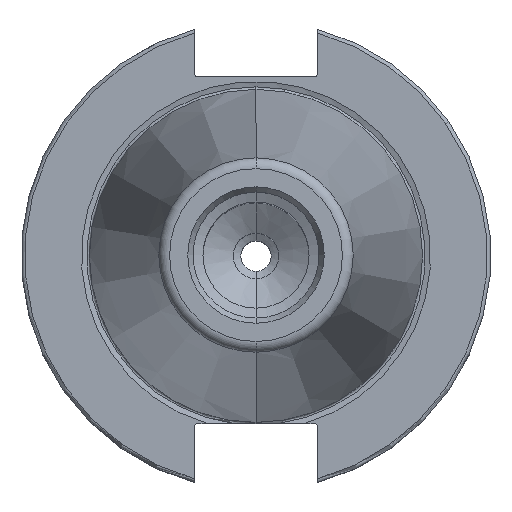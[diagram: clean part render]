
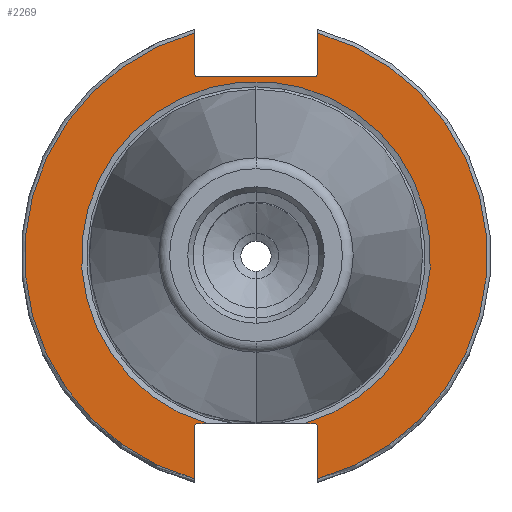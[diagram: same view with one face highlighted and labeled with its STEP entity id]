
A CAD part, top view. The second image highlights one B-rep face of the part: STEP entity #2269.
In plain terms, the highlighted planar face has unit normal (0, 0, 1).
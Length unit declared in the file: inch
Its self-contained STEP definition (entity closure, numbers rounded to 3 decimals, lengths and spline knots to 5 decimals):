
#35 = EDGE_CURVE ( 'NONE', #653, #1899, #2554, .T. ) ;
#63 = CARTESIAN_POINT ( 'NONE',  ( 0., 0., -0.125 ) ) ;
#81 = ORIENTED_EDGE ( 'NONE', *, *, #629, .F. ) ;
#93 = PLANE ( 'NONE',  #1018 ) ;
#112 = VERTEX_POINT ( 'NONE', #398 ) ;
#116 = CARTESIAN_POINT ( 'NONE',  ( -0.51, 0., -0.125 ) ) ;
#117 = CARTESIAN_POINT ( 'NONE',  ( -0.51, 1.5075, -0.125 ) ) ;
#121 = VERTEX_POINT ( 'NONE', #117 ) ;
#177 = EDGE_CURVE ( 'NONE', #2187, #3429, #1937, .T. ) ;
#261 = AXIS2_PLACEMENT_3D ( 'NONE', #3128, #2241, #2262 ) ;
#290 = DIRECTION ( 'NONE',  ( 0., -1., 0. ) ) ;
#397 = AXIS2_PLACEMENT_3D ( 'NONE', #63, #2986, #1528 ) ;
#398 = CARTESIAN_POINT ( 'NONE',  ( -0.48, -1.3825, -0.125 ) ) ;
#414 = CARTESIAN_POINT ( 'NONE',  ( 0.51, 0., -0.125 ) ) ;
#518 = ORIENTED_EDGE ( 'NONE', *, *, #1623, .F. ) ;
#557 = LINE ( 'NONE', #1736, #1743 ) ;
#560 = ORIENTED_EDGE ( 'NONE', *, *, #941, .T. ) ;
#583 = EDGE_CURVE ( 'NONE', #883, #1775, #3427, .T. ) ;
#595 = ORIENTED_EDGE ( 'NONE', *, *, #583, .T. ) ;
#629 = EDGE_CURVE ( 'NONE', #3429, #2669, #1135, .T. ) ;
#642 = DIRECTION ( 'NONE',  ( 0., -1., 0. ) ) ;
#653 = VERTEX_POINT ( 'NONE', #2189 ) ;
#674 = ORIENTED_EDGE ( 'NONE', *, *, #177, .F. ) ;
#709 = EDGE_CURVE ( 'NONE', #1899, #121, #3071, .T. ) ;
#713 = CARTESIAN_POINT ( 'NONE',  ( 0.51, 1.83806, -0.125 ) ) ;
#729 = DIRECTION ( 'NONE',  ( 0., 1., 0. ) ) ;
#733 = EDGE_CURVE ( 'NONE', #1775, #2669, #1300, .T. ) ;
#883 = VERTEX_POINT ( 'NONE', #890 ) ;
#885 = VERTEX_POINT ( 'NONE', #1780 ) ;
#890 = CARTESIAN_POINT ( 'NONE',  ( 0.48, -1.3825, -0.125 ) ) ;
#903 = CIRCLE ( 'NONE', #2863, 0.03 ) ;
#932 = DIRECTION ( 'NONE',  ( 0., 0., -1. ) ) ;
#941 = EDGE_CURVE ( 'NONE', #112, #1725, #557, .T. ) ;
#1013 = EDGE_CURVE ( 'NONE', #2760, #112, #3223, .T. ) ;
#1018 = AXIS2_PLACEMENT_3D ( 'NONE', #1278, #2464, #3647 ) ;
#1052 = DIRECTION ( 'NONE',  ( 0., 0., -1. ) ) ;
#1135 = CIRCLE ( 'NONE', #1627, 1.9075 ) ;
#1163 = CARTESIAN_POINT ( 'NONE',  ( -0.48, 1.5075, -0.125 ) ) ;
#1182 = CARTESIAN_POINT ( 'NONE',  ( 0.48, -1.4125, -0.125 ) ) ;
#1204 = DIRECTION ( 'NONE',  ( 0., 0., -1. ) ) ;
#1278 = CARTESIAN_POINT ( 'NONE',  ( 1.9075, 0., -0.125 ) ) ;
#1291 = DIRECTION ( 'NONE',  ( 0., 1., 0. ) ) ;
#1300 = LINE ( 'NONE', #414, #1444 ) ;
#1334 = ORIENTED_EDGE ( 'NONE', *, *, #1865, .T. ) ;
#1348 = CARTESIAN_POINT ( 'NONE',  ( 0.40209, -1.3825, -0.125 ) ) ;
#1419 = EDGE_LOOP ( 'NONE', ( #2718, #1872, #1546, #1526, #560, #2036, #2591, #595, #2222, #81, #674, #1334, #518, #3770 ) ) ;
#1420 = EDGE_CURVE ( 'NONE', #3113, #883, #2998, .T. ) ;
#1444 = VECTOR ( 'NONE', #1611, 39.37008 ) ;
#1526 = ORIENTED_EDGE ( 'NONE', *, *, #1013, .T. ) ;
#1528 = DIRECTION ( 'NONE',  ( 0., 1., 0. ) ) ;
#1546 = ORIENTED_EDGE ( 'NONE', *, *, #1980, .T. ) ;
#1564 = AXIS2_PLACEMENT_3D ( 'NONE', #2119, #1204, #3575 ) ;
#1611 = DIRECTION ( 'NONE',  ( 0., -1., 0. ) ) ;
#1623 = EDGE_CURVE ( 'NONE', #885, #2277, #3028, .T. ) ;
#1624 = CARTESIAN_POINT ( 'NONE',  ( 0., 0., -0.125 ) ) ;
#1627 = AXIS2_PLACEMENT_3D ( 'NONE', #1624, #1052, #2484 ) ;
#1689 = VECTOR ( 'NONE', #2135, 39.37008 ) ;
#1708 = CARTESIAN_POINT ( 'NONE',  ( 0.51, 1.5075, -0.125 ) ) ;
#1725 = VERTEX_POINT ( 'NONE', #2225 ) ;
#1735 = DIRECTION ( 'NONE',  ( 0., 0., -1. ) ) ;
#1736 = CARTESIAN_POINT ( 'NONE',  ( 1.9075, -1.3825, -0.125 ) ) ;
#1743 = VECTOR ( 'NONE', #3515, 39.37008 ) ;
#1775 = VERTEX_POINT ( 'NONE', #3206 ) ;
#1780 = CARTESIAN_POINT ( 'NONE',  ( -0.48, 1.4775, -0.125 ) ) ;
#1865 = EDGE_CURVE ( 'NONE', #2187, #2277, #3047, .T. ) ;
#1872 = ORIENTED_EDGE ( 'NONE', *, *, #35, .F. ) ;
#1898 = CIRCLE ( 'NONE', #397, 1.43979 ) ;
#1899 = VERTEX_POINT ( 'NONE', #2130 ) ;
#1900 = CARTESIAN_POINT ( 'NONE',  ( 1.9075, 1.4775, -0.125 ) ) ;
#1916 = DIRECTION ( 'NONE',  ( 0., -1., 0. ) ) ;
#1937 = LINE ( 'NONE', #3117, #2178 ) ;
#1980 = EDGE_CURVE ( 'NONE', #653, #2760, #2461, .T. ) ;
#2036 = ORIENTED_EDGE ( 'NONE', *, *, #3777, .T. ) ;
#2080 = VECTOR ( 'NONE', #1291, 39.37008 ) ;
#2119 = CARTESIAN_POINT ( 'NONE',  ( 0., 0., -0.125 ) ) ;
#2130 = CARTESIAN_POINT ( 'NONE',  ( -0.51, 1.83806, -0.125 ) ) ;
#2135 = DIRECTION ( 'NONE',  ( 1., 0., 0. ) ) ;
#2178 = VECTOR ( 'NONE', #729, 39.37008 ) ;
#2187 = VERTEX_POINT ( 'NONE', #1708 ) ;
#2189 = CARTESIAN_POINT ( 'NONE',  ( -0.51, -1.83806, -0.125 ) ) ;
#2222 = ORIENTED_EDGE ( 'NONE', *, *, #733, .T. ) ;
#2225 = CARTESIAN_POINT ( 'NONE',  ( -0.40209, -1.3825, -0.125 ) ) ;
#2241 = DIRECTION ( 'NONE',  ( 0., 0., -1. ) ) ;
#2262 = DIRECTION ( 'NONE',  ( 0., -1., 0. ) ) ;
#2269 = ADVANCED_FACE ( 'NONE', ( #3027 ), #93, .T. ) ;
#2277 = VERTEX_POINT ( 'NONE', #3780 ) ;
#2337 = DIRECTION ( 'NONE',  ( 1., 0., 0. ) ) ;
#2375 = AXIS2_PLACEMENT_3D ( 'NONE', #1182, #932, #642 ) ;
#2378 = AXIS2_PLACEMENT_3D ( 'NONE', #2402, #1735, #3191 ) ;
#2402 = CARTESIAN_POINT ( 'NONE',  ( 0.48, 1.5075, -0.125 ) ) ;
#2461 = LINE ( 'NONE', #3640, #2080 ) ;
#2464 = DIRECTION ( 'NONE',  ( 0., 0., 1. ) ) ;
#2484 = DIRECTION ( 'NONE',  ( 0., 1., 0. ) ) ;
#2504 = EDGE_CURVE ( 'NONE', #885, #121, #903, .T. ) ;
#2511 = CARTESIAN_POINT ( 'NONE',  ( -0.51, -1.4125, -0.125 ) ) ;
#2554 = CIRCLE ( 'NONE', #1564, 1.9075 ) ;
#2559 = VECTOR ( 'NONE', #2337, 39.37008 ) ;
#2591 = ORIENTED_EDGE ( 'NONE', *, *, #1420, .T. ) ;
#2635 = CARTESIAN_POINT ( 'NONE',  ( 1.9075, -1.3825, -0.125 ) ) ;
#2669 = VERTEX_POINT ( 'NONE', #3286 ) ;
#2718 = ORIENTED_EDGE ( 'NONE', *, *, #709, .F. ) ;
#2760 = VERTEX_POINT ( 'NONE', #2511 ) ;
#2863 = AXIS2_PLACEMENT_3D ( 'NONE', #1163, #3190, #290 ) ;
#2986 = DIRECTION ( 'NONE',  ( 0., 0., -1. ) ) ;
#2998 = LINE ( 'NONE', #2635, #2559 ) ;
#3027 = FACE_OUTER_BOUND ( 'NONE', #1419, .T. ) ;
#3028 = LINE ( 'NONE', #1900, #1689 ) ;
#3047 = CIRCLE ( 'NONE', #2378, 0.03 ) ;
#3071 = LINE ( 'NONE', #116, #3105 ) ;
#3105 = VECTOR ( 'NONE', #1916, 39.37008 ) ;
#3113 = VERTEX_POINT ( 'NONE', #1348 ) ;
#3117 = CARTESIAN_POINT ( 'NONE',  ( 0.51, 0., -0.125 ) ) ;
#3128 = CARTESIAN_POINT ( 'NONE',  ( -0.48, -1.4125, -0.125 ) ) ;
#3190 = DIRECTION ( 'NONE',  ( 0., 0., -1. ) ) ;
#3191 = DIRECTION ( 'NONE',  ( 0., -1., 0. ) ) ;
#3206 = CARTESIAN_POINT ( 'NONE',  ( 0.51, -1.4125, -0.125 ) ) ;
#3223 = CIRCLE ( 'NONE', #261, 0.03 ) ;
#3286 = CARTESIAN_POINT ( 'NONE',  ( 0.51, -1.83806, -0.125 ) ) ;
#3427 = CIRCLE ( 'NONE', #2375, 0.03 ) ;
#3429 = VERTEX_POINT ( 'NONE', #713 ) ;
#3515 = DIRECTION ( 'NONE',  ( 1., 0., 0. ) ) ;
#3575 = DIRECTION ( 'NONE',  ( 0., 1., 0. ) ) ;
#3640 = CARTESIAN_POINT ( 'NONE',  ( -0.51, 0., -0.125 ) ) ;
#3647 = DIRECTION ( 'NONE',  ( 0., -1., 0. ) ) ;
#3770 = ORIENTED_EDGE ( 'NONE', *, *, #2504, .T. ) ;
#3777 = EDGE_CURVE ( 'NONE', #1725, #3113, #1898, .T. ) ;
#3780 = CARTESIAN_POINT ( 'NONE',  ( 0.48, 1.4775, -0.125 ) ) ;
